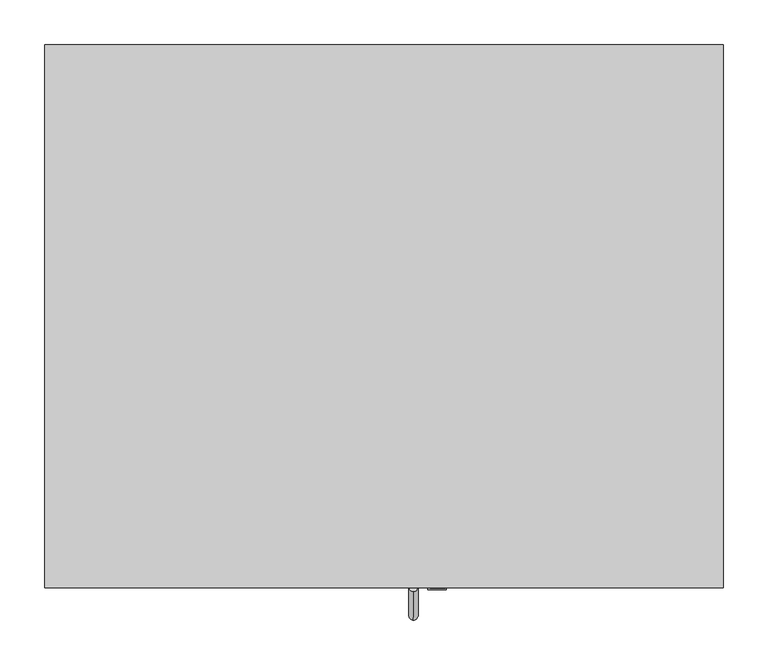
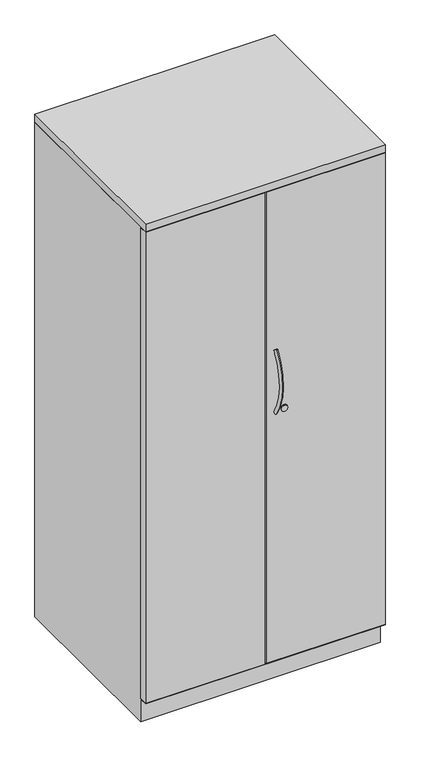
"""IFC4 building model written with IfcOpenShell, lengths in millimetres: furniture geometry, Steelcase - Universal Storage - Cabinet - Storage - 66H-84H - Proud Steel : 66H x 23 1/8D x 30W."""

from ifc_helpers import new_model, si_unit, point, frame, frame_2d, origin, place, context, project, spatial, polyline, circle_curve, ellipse_curve, trimmed, segment, composite_curve, outline, extrude, faceted_brep, source, transform, mapped, element, save
from ifc_brep_helpers import plane_surface, revolved_surface, advanced_brep


def furniture_79280600(model_context):
    return source(origin(), model_context, "Body", "SolidModel", [
        extrude(outline(polyline([(762.0, 0.0), (762.0, -609.6), (0.0, -609.6), (0.0, 0.0), (762.0, 0.0)])), frame((0.0, 0.0, 1663.7), z_axis=(0.0, 0.0, 1.0), x_axis=(1.0, 0.0, 0.0)), (0.0, 0.0, 1.0), 25.4),
        extrude(outline(polyline([(0.0, -609.6), (0.0, -584.2008418), (378.46, -584.2008418), (378.46, -609.6), (0.0, -609.6)])), frame((0.0, 0.0, 77.724), z_axis=(0.0, 0.0, 1.0), x_axis=(1.0, 0.0, 0.0)), (0.0, 0.0, 1.0), 1584.452),
        extrude(outline(polyline([(762.0, -584.2008418), (762.0, -609.6), (383.54, -609.6), (383.54, -584.2008418), (762.0, -584.2008418)])), frame((0.0, 0.0, 77.724), z_axis=(0.0, 0.0, 1.0), x_axis=(1.0, 0.0, 0.0)), (0.0, 0.0, 1.0), 1584.452),
        extrude(outline(composite_curve([segment(trimmed(circle_curve(frame_2d((917.702, 440.5418131)), 10.16), [point((917.702, 450.7018131))], [point((917.702, 430.3818131))], False, "CARTESIAN"), True, "CONTINUOUS"), segment(trimmed(circle_curve(frame_2d((917.702, 440.5418131)), 10.16), [point((917.702, 430.3818131))], [point((917.702, 450.7018131))], False, "CARTESIAN"), True, "CONTINUOUS")], self_intersect=False)), frame((0.0, -612.013031, 0.0), z_axis=(0.0, 1.0, 0.0), x_axis=(0.0, 0.0, 1.0)), (0.0, 0.0, 1.0), 2.413031),
        advanced_brep(
        [(414.0783765, -605.0224318, 1119.7196018), (414.0783765, -613.6221633, 1125.3900503), (414.0783765, -602.5951581, 911.9931915), (414.0783765, -611.0600418, 906.1233437)],
        [
            (0, 1, circle_curve(frame((414.0783765, -609.3222976, 1122.5548261), z_axis=(0.0, 0.5504787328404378, 0.83484918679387), x_axis=(0.0, -0.83484918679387, 0.5504787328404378)), 5.1504701)),
            (1, 0, circle_curve(frame((414.0783765, -609.3222976, 1122.5548261), z_axis=(0.0, 0.5504787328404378, 0.83484918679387), x_axis=(0.0, -0.83484918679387, 0.5504787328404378)), 5.1504701)),
            (2, 3, circle_curve(frame((414.0783765, -606.8276, 909.0582676), z_axis=(0.0, 0.5698361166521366, -0.8217583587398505), x_axis=(0.0, -0.8217583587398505, -0.5698361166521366)), 5.1504701)),
            (3, 2, circle_curve(frame((414.0783765, -606.8276, 909.0582676), z_axis=(0.0, 0.5698361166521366, -0.8217583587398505), x_axis=(0.0, -0.8217583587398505, -0.5698361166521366)), 5.1504701)),
            (3, 1, circle_curve(frame((414.0783765, -450.226461, 1017.6509992), z_axis=(-1.0, 0.0, 0.0), x_axis=(0.0, -0.83484918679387, 0.5504787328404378)), 195.7188256)),
            (0, 2, circle_curve(frame((414.0783765, -450.226461, 1017.6509992), z_axis=(1.0, 0.0, 0.0), x_axis=(0.0, -0.83484918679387, 0.5504787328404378)), 185.4178854)),
        ],
        [
            plane_surface(frame((414.0783765, -609.3222976, 1122.5548261), z_axis=(0.0, 0.5504787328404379, 0.83484918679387), x_axis=(-1.0, 0.0, 0.0))),
            plane_surface(frame((414.0783765, -606.8276, 909.0582676), z_axis=(0.0, 0.5698361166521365, -0.8217583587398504), x_axis=(-1.0, 0.0, 0.0))),
            revolved_surface(trimmed(ellipse_curve(frame((414.0783765, -609.3222976, 1122.5548261), z_axis=(0.0, 0.5504787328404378, 0.83484918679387), x_axis=(0.0, -0.83484918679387, 0.5504787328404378)), 5.1504701, 5.1504701), [point((414.0783765, -605.0224318, 1119.7196018))], [point((414.0783765, -613.6221633, 1125.3900503))], True, "CARTESIAN"), (414.0783765, -450.226461, 1017.6509992), (1.0, 0.0, 0.0)),
            revolved_surface(trimmed(ellipse_curve(frame((414.0783765, -609.3222976, 1122.5548261), z_axis=(0.0, 0.5504787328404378, 0.83484918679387), x_axis=(0.0, -0.83484918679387, 0.5504787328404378)), 5.1504701, 5.1504701), [point((414.0783765, -613.6221633, 1125.3900503))], [point((414.0783765, -605.0224318, 1119.7196018))], True, "CARTESIAN"), (414.0783765, -450.226461, 1017.6509992), (1.0, 0.0, 0.0)),
        ],
        [
            (0, [[1, 2]]),
            (1, [[3, 4]]),
            (2, [[5, -1, 6, -4]]),
            (3, [[-6, -2, -5, -3]]),
        ],
    ),
        extrude(outline(composite_curve([segment(trimmed(circle_curve(frame_2d((919.3669832, 440.8109835)), 9.7167829), [point((919.3669832, 450.5277664))], [point((919.3669832, 431.0942006))], False, "CARTESIAN"), True, "CONTINUOUS"), segment(trimmed(circle_curve(frame_2d((919.3669832, 440.8109835)), 9.7167829), [point((919.3669832, 431.0942006))], [point((919.3669832, 450.5277664))], False, "CARTESIAN"), True, "CONTINUOUS")], self_intersect=False)), frame((0.0, -610.2695275, 0.0), z_axis=(0.0, 1.0, 0.0), x_axis=(0.0, 0.0, 1.0)), (0.0, 0.0, 1.0), 0.6695275),
        faceted_brep([(762.0, 0.0, 0.0), (762.0, -582.6768432, 0.0), (0.0, -582.6768432, 0.0), (0.0, 0.0, 0.0), (0.0, 0.0, 1662.176), (762.0, 0.0, 1662.176), (0.0, -582.6768432, 76.2), (0.0, -609.6, 76.2), (0.0, -609.6, 77.724), (0.0, -582.6768432, 77.724), (0.0, -582.6768432, 1662.176), (762.0, -582.6768432, 76.2), (762.0, -582.6768432, 1662.176), (762.0, -582.6768432, 77.724), (762.0, -609.4738418, 77.724), (762.0, -609.6, 76.2), (736.6000242, -25.4000008, 1662.176), (736.6000242, -582.6768432, 1662.176), (25.3999758, -582.6768432, 1662.176), (25.3999758, -25.4000008, 1662.176), (736.6000242, -25.4000008, 77.724), (736.6000242, -582.6768432, 77.724), (25.3999758, -582.6768432, 77.724), (25.3999758, -25.4000008, 77.724), (4.6981334, -584.2008418, 77.724), (736.6000242, -584.2008418, 77.724)], [[[0, 1, 2, 3]], [[0, 3, 4, 5]], [[4, 3, 2, 6, 7, 8, 9, 10]], [[2, 1, 11, 6]], [[1, 0, 5, 12, 13, 14, 15, 11]], [[16, 17, 12, 5, 4, 10, 18, 19]], [[17, 16, 20, 21]], [[12, 17, 21, 13]], [[18, 10, 9, 22]], [[19, 18, 22, 23]], [[16, 19, 23, 20]], [[8, 24, 25, 14, 13, 21, 20, 23, 22, 9]], [[15, 7, 6, 11]], [[24, 8, 7]], [[25, 24, 7, 15]], [[14, 25, 15]]]),
    ])


if __name__ == "__main__":
    model = new_model("IFC4")
    model_context = context("Model", 3, world=origin())
    ifc_project = project(units=[si_unit("LENGTHUNIT", "METRE", prefix="MILLI")], contexts=[model_context])
    site = spatial("IfcSite", under=ifc_project)
    building = spatial("IfcBuilding", under=site)
    placement = place(None, origin())
    furniture_shape = furniture_79280600(model_context)
    element("IfcFurniture", 1, ObjectType="Steelcase - Universal Storage - Cabinet - Storage - 66H-84H - Proud Steel : 66H x 23 1/8D x 30W", at=placement, inside=building, context=model_context, shape_type="MappedRepresentation", body=[
        mapped(furniture_shape, transform((0.0, 0.0, 0.0), x_axis=(1.0, 0.0, 0.0), y_axis=(0.0, 1.0, 0.0), z_axis=(0.0, 0.0, 1.0))),
    ])
    save(model, "model.ifc")
